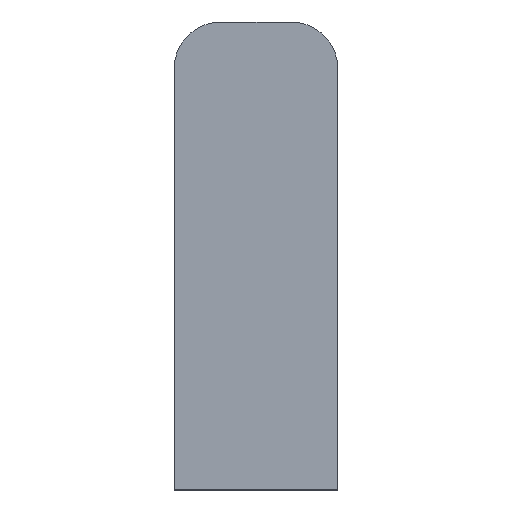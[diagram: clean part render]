
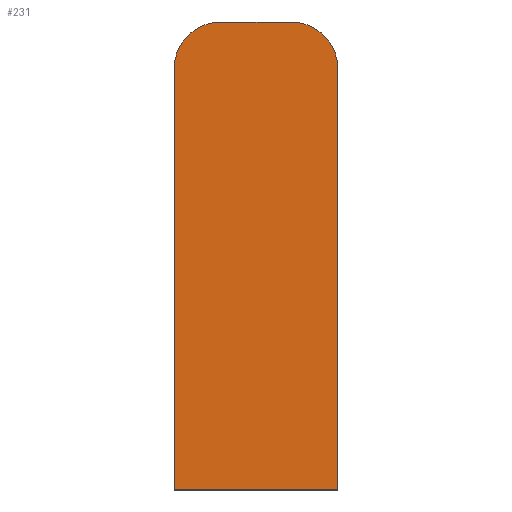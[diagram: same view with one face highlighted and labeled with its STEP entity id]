
A CAD part, front view. The second image highlights one B-rep face of the part: STEP entity #231.
In plain terms, the highlighted planar face has unit normal (0, -1, 0).
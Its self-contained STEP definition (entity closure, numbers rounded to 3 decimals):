
#7 = CARTESIAN_POINT ( 'NONE',  ( -5.25, 0., -16.5 ) ) ;
#19 = CARTESIAN_POINT ( 'NONE',  ( 5.25, 0., -16.5 ) ) ;
#29 = CARTESIAN_POINT ( 'NONE',  ( -5.25, 0., 10.5 ) ) ;
#30 = CARTESIAN_POINT ( 'NONE',  ( -2.25, 0., 13.5 ) ) ;
#39 = CARTESIAN_POINT ( 'NONE',  ( 2.25, 0., 13.5 ) ) ;
#44 = CARTESIAN_POINT ( 'NONE',  ( 5.25, 0., 10.5 ) ) ;
#61 = ORIENTED_EDGE ( 'NONE', *, *, #247, .T. ) ;
#62 = ORIENTED_EDGE ( 'NONE', *, *, #299, .T. ) ;
#65 = ORIENTED_EDGE ( 'NONE', *, *, #279, .T. ) ;
#80 = ORIENTED_EDGE ( 'NONE', *, *, #281, .T. ) ;
#84 = VECTOR ( 'NONE', #408, 1000. ) ;
#90 = ORIENTED_EDGE ( 'NONE', *, *, #253, .T. ) ;
#92 = CIRCLE ( 'NONE', #257, 3. ) ;
#94 = ORIENTED_EDGE ( 'NONE', *, *, #298, .T. ) ;
#107 = EDGE_LOOP ( 'NONE', ( #80, #61, #62, #65, #90, #94 ) ) ;
#134 = LINE ( 'NONE', #409, #84 ) ;
#156 = CIRCLE ( 'NONE', #271, 3. ) ;
#158 = VECTOR ( 'NONE', #371, 1000. ) ;
#162 = LINE ( 'NONE', #368, #158 ) ;
#172 = LINE ( 'NONE', #442, #178 ) ;
#178 = VECTOR ( 'NONE', #443, 1000. ) ;
#182 = LINE ( 'NONE', #444, #183 ) ;
#183 = VECTOR ( 'NONE', #445, 1000. ) ;
#190 = FACE_OUTER_BOUND ( 'NONE', #107, .T. ) ;
#231 = ADVANCED_FACE ( 'NONE', ( #190 ), #344, .F. ) ;
#237 = AXIS2_PLACEMENT_3D ( 'NONE', #343, #346, #347 ) ;
#247 = EDGE_CURVE ( 'NONE', #459, #454, #156, .T. ) ;
#253 = EDGE_CURVE ( 'NONE', #460, #458, #162, .T. ) ;
#257 = AXIS2_PLACEMENT_3D ( 'NONE', #400, #322, #324 ) ;
#271 = AXIS2_PLACEMENT_3D ( 'NONE', #359, #364, #365 ) ;
#279 = EDGE_CURVE ( 'NONE', #463, #460, #92, .T. ) ;
#281 = EDGE_CURVE ( 'NONE', #421, #459, #134, .T. ) ;
#298 = EDGE_CURVE ( 'NONE', #458, #421, #172, .T. ) ;
#299 = EDGE_CURVE ( 'NONE', #454, #463, #182, .T. ) ;
#322 = DIRECTION ( 'NONE',  ( 0., -1., 0. ) ) ;
#324 = DIRECTION ( 'NONE',  ( -1., 0., 0. ) ) ;
#343 = CARTESIAN_POINT ( 'NONE',  ( 0., 0., -1.5 ) ) ;
#344 = PLANE ( 'NONE',  #237 ) ;
#346 = DIRECTION ( 'NONE',  ( 0., 1., 0. ) ) ;
#347 = DIRECTION ( 'NONE',  ( -1., 0., 0. ) ) ;
#359 = CARTESIAN_POINT ( 'NONE',  ( 2.25, 0., 10.5 ) ) ;
#364 = DIRECTION ( 'NONE',  ( 0., -1., 0. ) ) ;
#365 = DIRECTION ( 'NONE',  ( -1., 0., 0. ) ) ;
#368 = CARTESIAN_POINT ( 'NONE',  ( -5.25, 0., -16.5 ) ) ;
#371 = DIRECTION ( 'NONE',  ( 0., 0., -1. ) ) ;
#400 = CARTESIAN_POINT ( 'NONE',  ( -2.25, 0., 10.5 ) ) ;
#408 = DIRECTION ( 'NONE',  ( 0., 0., 1. ) ) ;
#409 = CARTESIAN_POINT ( 'NONE',  ( 5.25, 0., -16.5 ) ) ;
#421 = VERTEX_POINT ( 'NONE', #19 ) ;
#442 = CARTESIAN_POINT ( 'NONE',  ( 5.25, 0., -16.5 ) ) ;
#443 = DIRECTION ( 'NONE',  ( 1., 0., 0. ) ) ;
#444 = CARTESIAN_POINT ( 'NONE',  ( 2.25, 0., 13.5 ) ) ;
#445 = DIRECTION ( 'NONE',  ( -1., 0., 0. ) ) ;
#454 = VERTEX_POINT ( 'NONE', #39 ) ;
#458 = VERTEX_POINT ( 'NONE', #7 ) ;
#459 = VERTEX_POINT ( 'NONE', #44 ) ;
#460 = VERTEX_POINT ( 'NONE', #29 ) ;
#463 = VERTEX_POINT ( 'NONE', #30 ) ;
